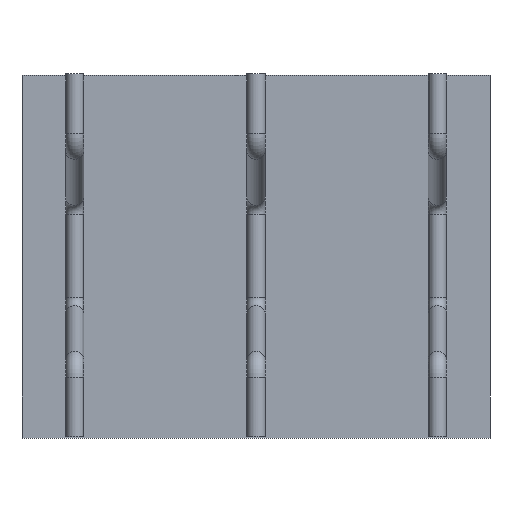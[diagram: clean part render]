
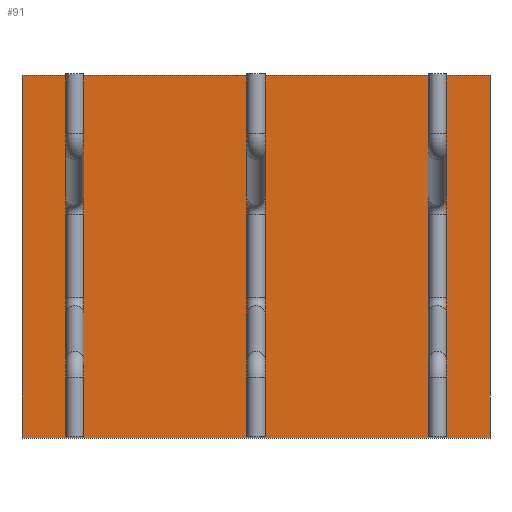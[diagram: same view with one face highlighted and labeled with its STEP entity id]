
A CAD part, top view. The second image highlights one B-rep face of the part: STEP entity #91.
In plain terms, the highlighted planar face has unit normal (0, 0, 1).
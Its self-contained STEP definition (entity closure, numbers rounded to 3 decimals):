
#52=CARTESIAN_POINT('Axis2P3D Location',(0.,0.,0.)) ;
#57=CARTESIAN_POINT('Line Origine',(0.,500.,0.)) ;
#61=CARTESIAN_POINT('Vertex',(645.,500.,0.)) ;
#63=CARTESIAN_POINT('Vertex',(-645.,500.,0.)) ;
#66=CARTESIAN_POINT('Line Origine',(-645.,0.,0.)) ;
#70=CARTESIAN_POINT('Vertex',(-645.,-500.,0.)) ;
#73=CARTESIAN_POINT('Line Origine',(0.,-500.,0.)) ;
#77=CARTESIAN_POINT('Vertex',(645.,-500.,0.)) ;
#80=CARTESIAN_POINT('Line Origine',(645.,0.,0.)) ;
#53=DIRECTION('Axis2P3D Direction',(0.,0.,1.)) ;
#54=DIRECTION('Axis2P3D XDirection',(1.,0.,0.)) ;
#58=DIRECTION('Vector Direction',(1.,0.,0.)) ;
#67=DIRECTION('Vector Direction',(0.,1.,0.)) ;
#74=DIRECTION('Vector Direction',(-1.,0.,0.)) ;
#81=DIRECTION('Vector Direction',(0.,-1.,0.)) ;
#55=AXIS2_PLACEMENT_3D('Plane Axis2P3D',#52,#53,#54) ;
#86=ORIENTED_EDGE('',*,*,#65,.T.) ;
#87=ORIENTED_EDGE('',*,*,#72,.T.) ;
#88=ORIENTED_EDGE('',*,*,#79,.T.) ;
#89=ORIENTED_EDGE('',*,*,#84,.T.) ;
#59=VECTOR('Line Direction',#58,1.) ;
#68=VECTOR('Line Direction',#67,1.) ;
#75=VECTOR('Line Direction',#74,1.) ;
#82=VECTOR('Line Direction',#81,1.) ;
#91=ADVANCED_FACE('Fill.1',(#90),#56,.T.) ;
#65=EDGE_CURVE('',#62,#64,#60,.F.) ;
#72=EDGE_CURVE('',#64,#71,#69,.F.) ;
#79=EDGE_CURVE('',#71,#78,#76,.F.) ;
#84=EDGE_CURVE('',#78,#62,#83,.F.) ;
#85=EDGE_LOOP('',(#86,#87,#88,#89)) ;
#90=FACE_OUTER_BOUND('',#85,.T.) ;
#60=LINE('Line',#57,#59) ;
#69=LINE('Line',#66,#68) ;
#76=LINE('Line',#73,#75) ;
#83=LINE('Line',#80,#82) ;
#56=PLANE('',#55) ;
#62=VERTEX_POINT('',#61) ;
#64=VERTEX_POINT('',#63) ;
#71=VERTEX_POINT('',#70) ;
#78=VERTEX_POINT('',#77) ;
